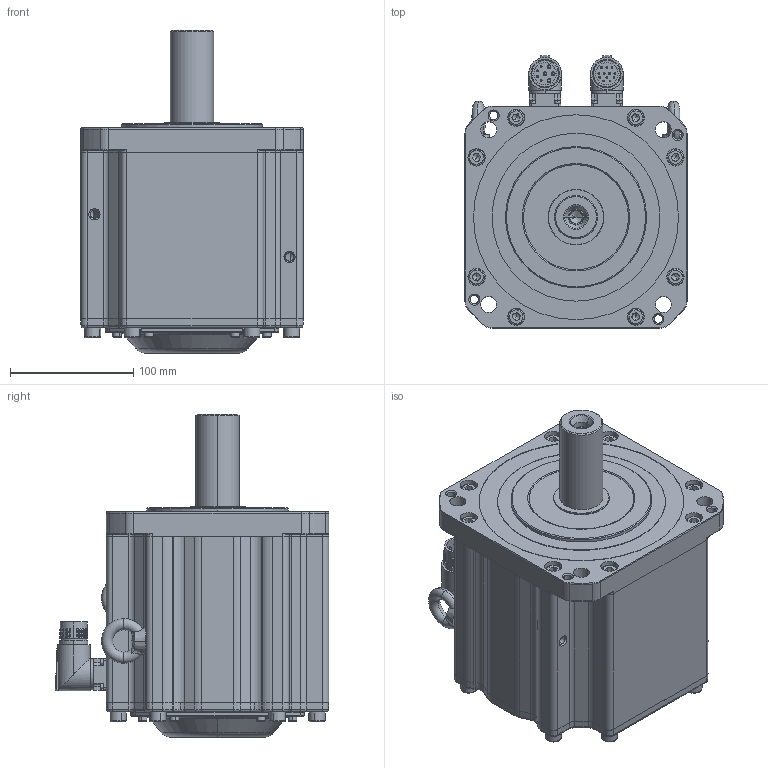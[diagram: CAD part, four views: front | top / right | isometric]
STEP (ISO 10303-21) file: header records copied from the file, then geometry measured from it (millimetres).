
FILE_DESCRIPTION (( 'STEP AP203' ), '1' );
FILE_NAME ('MC20-180-3M15-N292-0¡õPL-NNNN.STEP', '2025-07-30T13:22:57', ( '' ), ( '' ), 'SwSTEP 2.0', 'SolidWorks 2014', '' );
FILE_SCHEMA (( 'CONFIG_CONTROL_DESIGN' ));
Length unit declared in the file: millimetre
Products named in the file (1): MC20-180-3M15-N292-0¡õPL-NNNN
Bounding box: 180 x 221.35 x 261.95 mm (x, y, z)
Volume: 6789078.8 mm3; surface area: 474364.2 mm2
Topology: 40 solids, 42 shells, 2194 faces, 5079 edges, 3029 vertices
Faces by surface type: plane 879, cylinder 578, cone 482, torus 208, bspline 47
Entity records: 64157 total; most frequent: CARTESIAN_POINT 14092, DIRECTION 10995, ORIENTED_EDGE 9938, EDGE_CURVE 4969, AXIS2_PLACEMENT_3D 4263, VERTEX_POINT 3029, LINE 2469, VECTOR 2469
